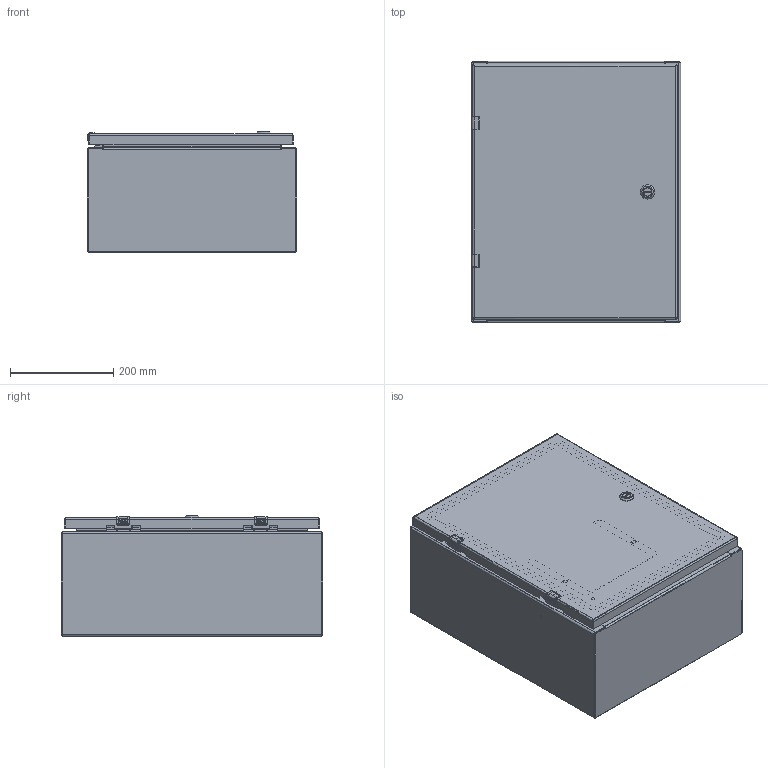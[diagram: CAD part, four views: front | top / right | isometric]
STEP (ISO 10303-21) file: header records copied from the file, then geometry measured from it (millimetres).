
FILE_DESCRIPTION((''),'2;1');
FILE_NAME('MODEL-306_ASM','2025-02-21T15:40:17',('johnh'),('SAGINAW CONTROL & ENGINEERING'),'CREO PARAMETRIC BY PTC INC, 2021284','CREO PARAMETRIC BY PTC INC, 2021284','');
FILE_SCHEMA(('AUTOMOTIVE_DESIGN { 1 0 10303 214 1 1 1 1 }'));
Length unit declared in the file: inch
Products named in the file (29): MODEL-306-BDY; MODEL-306-TP; MODEL-306-BTM; MODEL-306-DR; 100837; 100882; 111541; 100794_SHAFT; 100794_INSERT; 100794_CAM; 100794_NUT; 100794_SCREW; 100794_ASM; MODEL-306-DOOR-GASKET; 126392; 126392_ASM; 126395; 102483; 101226; 101389; 102140; 132757; MODEL-306-DOOR-ASSY_ASM; 101651; 122191; SUBPANEL; 100904; SUBPANEL-SUBASSEMBLY_ASM; MODEL-306_ASM
Assembly tree (49 placements, depth 4):
  MODEL-306_ASM
    MODEL-306-BDY
    MODEL-306-TP
    MODEL-306-BTM
    MODEL-306-DOOR-ASSY_ASM
      MODEL-306-DR
      100837  x3
      100882  x2
      111541
      100794_ASM
        100794_SHAFT
        100794_INSERT
        100794_CAM
        100794_NUT
        100794_SCREW
      MODEL-306-DOOR-GASKET
      126392_ASM  x2
        126392
      126395  x2
      102483  x6
      101226  x2
      101389  x2
      102140  x2
      132757  x2
    100837
    101651  x4
    122191
    SUBPANEL-SUBASSEMBLY_ASM
      SUBPANEL
      100904  x4
Bounding box: 406.4 x 508 x 234.33 mm (x, y, z)
Volume: 2428596.4 mm3; surface area: 2253776.1 mm2
Topology: 46 solids, 46 shells, 2529 faces, 6423 edges, 4034 vertices
Faces by surface type: plane 1060, cylinder 672, bspline 432, torus 205, cone 108, sphere 52
Entity records: 81319 total; most frequent: CARTESIAN_POINT 23534, ORIENTED_EDGE 8312, DIRECTION 7786, PRESENTATION_STYLE_ASSIGNMENT 4354, EDGE_CURVE 4156, STYLED_ITEM 4079, CURVE_STYLE 3994, AXIS2_PLACEMENT_3D 2844
